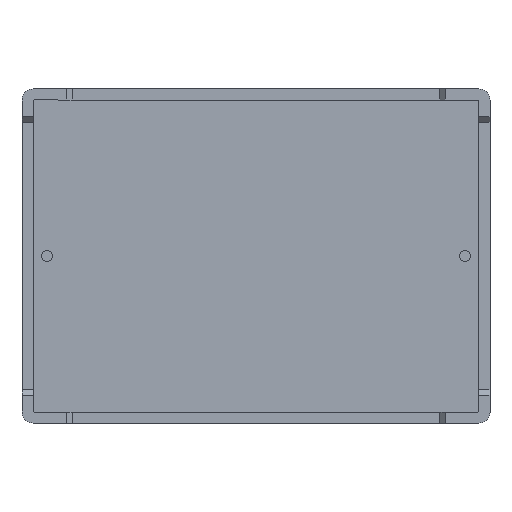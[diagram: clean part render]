
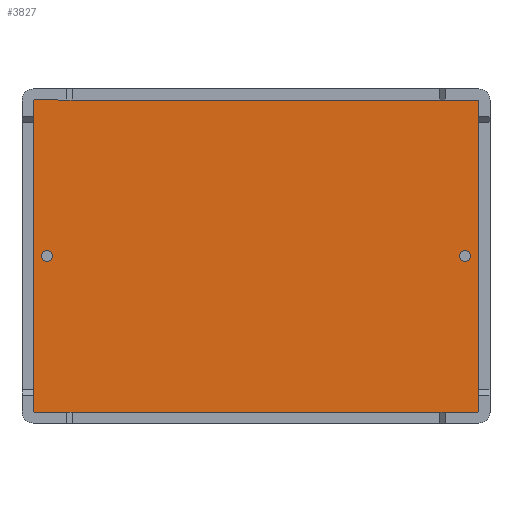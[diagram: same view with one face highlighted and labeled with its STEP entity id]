
A CAD part, front view. The second image highlights one B-rep face of the part: STEP entity #3827.
In plain terms, the highlighted planar face has unit normal (0, -1, 0).
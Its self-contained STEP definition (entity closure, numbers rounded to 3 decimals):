
#48 = VECTOR ( 'NONE', #2425, 1000. ) ;
#59 = LINE ( 'NONE', #3095, #48 ) ;
#157 = DIRECTION ( 'NONE',  ( 0., -1., 0. ) ) ;
#167 = EDGE_CURVE ( 'NONE', #958, #3704, #648, .T. ) ;
#171 = DIRECTION ( 'NONE',  ( 0., 0., 1. ) ) ;
#176 = CARTESIAN_POINT ( 'NONE',  ( 20., 1., -14. ) ) ;
#204 = CIRCLE ( 'NONE', #2063, 0.5 ) ;
#207 = EDGE_CURVE ( 'NONE', #4107, #3131, #344, .T. ) ;
#245 = EDGE_CURVE ( 'NONE', #667, #712, #59, .T. ) ;
#290 = EDGE_CURVE ( 'NONE', #1415, #1520, #3551, .T. ) ;
#301 = EDGE_CURVE ( 'NONE', #1667, #850, #3428, .T. ) ;
#313 = EDGE_CURVE ( 'NONE', #561, #3719, #3002, .T. ) ;
#324 = EDGE_CURVE ( 'NONE', #1520, #667, #2878, .T. ) ;
#335 = EDGE_CURVE ( 'NONE', #712, #4107, #2706, .T. ) ;
#344 = LINE ( 'NONE', #176, #452 ) ;
#345 = EDGE_CURVE ( 'NONE', #3131, #958, #2552, .T. ) ;
#359 = EDGE_CURVE ( 'NONE', #3704, #1415, #2482, .T. ) ;
#452 = VECTOR ( 'NONE', #171, 1000. ) ;
#458 = CARTESIAN_POINT ( 'NONE',  ( 19.9, 1., 14. ) ) ;
#516 = ORIENTED_EDGE ( 'NONE', *, *, #301, .F. ) ;
#523 = ORIENTED_EDGE ( 'NONE', *, *, #1637, .F. ) ;
#529 = ORIENTED_EDGE ( 'NONE', *, *, #313, .F. ) ;
#538 = ORIENTED_EDGE ( 'NONE', *, *, #1327, .F. ) ;
#542 = ORIENTED_EDGE ( 'NONE', *, *, #290, .T. ) ;
#561 = VERTEX_POINT ( 'NONE', #2832 ) ;
#575 = DIRECTION ( 'NONE',  ( 0., 0., -1. ) ) ;
#577 = ORIENTED_EDGE ( 'NONE', *, *, #324, .T. ) ;
#583 = ORIENTED_EDGE ( 'NONE', *, *, #245, .T. ) ;
#584 = DIRECTION ( 'NONE',  ( 0., 0., -1. ) ) ;
#589 = ORIENTED_EDGE ( 'NONE', *, *, #335, .T. ) ;
#597 = ORIENTED_EDGE ( 'NONE', *, *, #207, .T. ) ;
#601 = ORIENTED_EDGE ( 'NONE', *, *, #345, .T. ) ;
#604 = ORIENTED_EDGE ( 'NONE', *, *, #167, .T. ) ;
#606 = DIRECTION ( 'NONE',  ( 0., -1., 0. ) ) ;
#609 = VECTOR ( 'NONE', #1457, 1000. ) ;
#628 = AXIS2_PLACEMENT_3D ( 'NONE', #785, #606, #584 ) ;
#639 = ORIENTED_EDGE ( 'NONE', *, *, #359, .T. ) ;
#648 = LINE ( 'NONE', #1436, #609 ) ;
#667 = VERTEX_POINT ( 'NONE', #1900 ) ;
#677 = CARTESIAN_POINT ( 'NONE',  ( 18.75, 1., 0.5 ) ) ;
#712 = VERTEX_POINT ( 'NONE', #1561 ) ;
#785 = CARTESIAN_POINT ( 'NONE',  ( -18.75, 1., 0. ) ) ;
#850 = VERTEX_POINT ( 'NONE', #2853 ) ;
#958 = VERTEX_POINT ( 'NONE', #458 ) ;
#992 = DIRECTION ( 'NONE',  ( 0., 0., -1. ) ) ;
#1046 = CARTESIAN_POINT ( 'NONE',  ( -20., 1., -13.9 ) ) ;
#1169 = DIRECTION ( 'NONE',  ( 0., -1., 0. ) ) ;
#1270 = CARTESIAN_POINT ( 'NONE',  ( -20., 1., 14. ) ) ;
#1327 = EDGE_CURVE ( 'NONE', #3719, #561, #2688, .T. ) ;
#1415 = VERTEX_POINT ( 'NONE', #2412 ) ;
#1436 = CARTESIAN_POINT ( 'NONE',  ( 20., 1., 14. ) ) ;
#1457 = DIRECTION ( 'NONE',  ( -1., 0., 0. ) ) ;
#1470 = CARTESIAN_POINT ( 'NONE',  ( 18.75, 1., 0. ) ) ;
#1520 = VERTEX_POINT ( 'NONE', #1046 ) ;
#1561 = CARTESIAN_POINT ( 'NONE',  ( 19.9, 1., -14. ) ) ;
#1625 = AXIS2_PLACEMENT_3D ( 'NONE', #2393, #157, #2742 ) ;
#1637 = EDGE_CURVE ( 'NONE', #850, #1667, #204, .T. ) ;
#1667 = VERTEX_POINT ( 'NONE', #677 ) ;
#1795 = DIRECTION ( 'NONE',  ( 0., 0., -1. ) ) ;
#1868 = AXIS2_PLACEMENT_3D ( 'NONE', #3260, #3427, #4122 ) ;
#1900 = CARTESIAN_POINT ( 'NONE',  ( -19.9, 1., -14. ) ) ;
#2045 = EDGE_LOOP ( 'NONE', ( #529, #538 ) ) ;
#2053 = EDGE_LOOP ( 'NONE', ( #516, #523 ) ) ;
#2063 = AXIS2_PLACEMENT_3D ( 'NONE', #1470, #3659, #1795 ) ;
#2095 = EDGE_LOOP ( 'NONE', ( #542, #577, #583, #589, #597, #601, #604, #639 ) ) ;
#2120 = DIRECTION ( 'NONE',  ( 0., 0., -1. ) ) ;
#2133 = DIRECTION ( 'NONE',  ( 0., -1., 0. ) ) ;
#2159 = CARTESIAN_POINT ( 'NONE',  ( -19.9, 1., 13.9 ) ) ;
#2335 = AXIS2_PLACEMENT_3D ( 'NONE', #2159, #2133, #2120 ) ;
#2367 = CARTESIAN_POINT ( 'NONE',  ( 19.9, 1., -13.9 ) ) ;
#2384 = PLANE ( 'NONE',  #2683 ) ;
#2393 = CARTESIAN_POINT ( 'NONE',  ( -18.75, 1., 0. ) ) ;
#2412 = CARTESIAN_POINT ( 'NONE',  ( -20., 1., 13.9 ) ) ;
#2420 = AXIS2_PLACEMENT_3D ( 'NONE', #2894, #2885, #2852 ) ;
#2425 = DIRECTION ( 'NONE',  ( 1., 0., 0. ) ) ;
#2482 = CIRCLE ( 'NONE', #2335, 0.1 ) ;
#2552 = CIRCLE ( 'NONE', #2982, 0.1 ) ;
#2564 = AXIS2_PLACEMENT_3D ( 'NONE', #2367, #1169, #3126 ) ;
#2590 = FACE_BOUND ( 'NONE', #2045, .T. ) ;
#2651 = CARTESIAN_POINT ( 'NONE',  ( -19.9, 1., 14. ) ) ;
#2683 = AXIS2_PLACEMENT_3D ( 'NONE', #4129, #2729, #575 ) ;
#2688 = CIRCLE ( 'NONE', #1625, 0.5 ) ;
#2706 = CIRCLE ( 'NONE', #2564, 0.1 ) ;
#2729 = DIRECTION ( 'NONE',  ( 0., -1., 0. ) ) ;
#2742 = DIRECTION ( 'NONE',  ( 0., 0., -1. ) ) ;
#2832 = CARTESIAN_POINT ( 'NONE',  ( -18.75, 1., 0.5 ) ) ;
#2852 = DIRECTION ( 'NONE',  ( 0., 0., -1. ) ) ;
#2853 = CARTESIAN_POINT ( 'NONE',  ( 18.75, 1., -0.5 ) ) ;
#2878 = CIRCLE ( 'NONE', #1868, 0.1 ) ;
#2885 = DIRECTION ( 'NONE',  ( 0., -1., 0. ) ) ;
#2894 = CARTESIAN_POINT ( 'NONE',  ( 18.75, 1., 0. ) ) ;
#2982 = AXIS2_PLACEMENT_3D ( 'NONE', #3239, #3233, #3232 ) ;
#3002 = CIRCLE ( 'NONE', #628, 0.5 ) ;
#3029 = FACE_BOUND ( 'NONE', #2053, .T. ) ;
#3091 = CARTESIAN_POINT ( 'NONE',  ( 20., 1., 13.9 ) ) ;
#3095 = CARTESIAN_POINT ( 'NONE',  ( -20., 1., -14. ) ) ;
#3126 = DIRECTION ( 'NONE',  ( 0., 0., -1. ) ) ;
#3131 = VERTEX_POINT ( 'NONE', #3091 ) ;
#3232 = DIRECTION ( 'NONE',  ( 0., 0., -1. ) ) ;
#3233 = DIRECTION ( 'NONE',  ( 0., -1., 0. ) ) ;
#3239 = CARTESIAN_POINT ( 'NONE',  ( 19.9, 1., 13.9 ) ) ;
#3260 = CARTESIAN_POINT ( 'NONE',  ( -19.9, 1., -13.9 ) ) ;
#3427 = DIRECTION ( 'NONE',  ( 0., -1., 0. ) ) ;
#3428 = CIRCLE ( 'NONE', #2420, 0.5 ) ;
#3551 = LINE ( 'NONE', #1270, #3590 ) ;
#3590 = VECTOR ( 'NONE', #992, 1000. ) ;
#3659 = DIRECTION ( 'NONE',  ( 0., -1., 0. ) ) ;
#3704 = VERTEX_POINT ( 'NONE', #2651 ) ;
#3719 = VERTEX_POINT ( 'NONE', #3801 ) ;
#3801 = CARTESIAN_POINT ( 'NONE',  ( -18.75, 1., -0.5 ) ) ;
#3827 = ADVANCED_FACE ( 'NONE', ( #3029, #2590, #4018 ), #2384, .T. ) ;
#4018 = FACE_OUTER_BOUND ( 'NONE', #2095, .T. ) ;
#4107 = VERTEX_POINT ( 'NONE', #4204 ) ;
#4122 = DIRECTION ( 'NONE',  ( 0., 0., -1. ) ) ;
#4129 = CARTESIAN_POINT ( 'NONE',  ( 0., 1., 0. ) ) ;
#4204 = CARTESIAN_POINT ( 'NONE',  ( 20., 1., -13.9 ) ) ;
